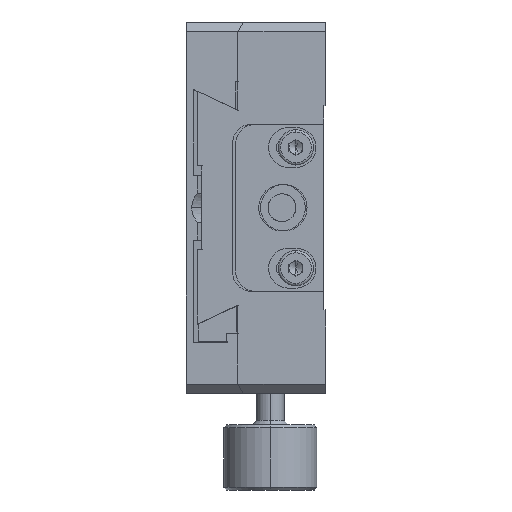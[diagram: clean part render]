
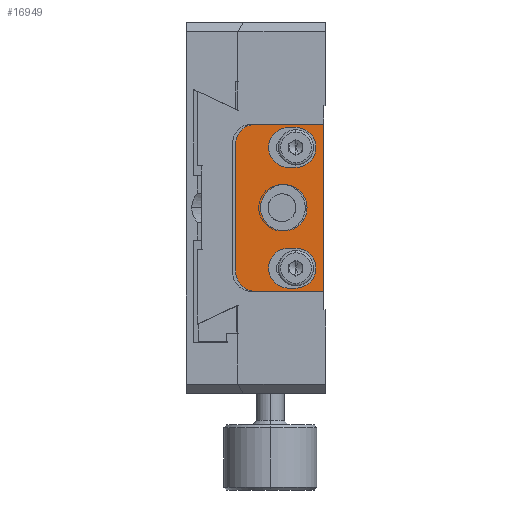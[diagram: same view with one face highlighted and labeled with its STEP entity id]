
A CAD part, left-side view. The second image highlights one B-rep face of the part: STEP entity #16949.
In plain terms, the highlighted planar face has unit normal (-1, 0, 0).
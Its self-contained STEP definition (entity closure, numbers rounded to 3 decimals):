
#80 = ORIENTED_EDGE ( 'NONE', *, *, #28536, .T. ) ;
#1060 = DIRECTION ( 'NONE',  ( 0., 0., 1. ) ) ;
#1406 = CARTESIAN_POINT ( 'NONE',  ( -20., -36.8, 6.5 ) ) ;
#1515 = CARTESIAN_POINT ( 'NONE',  ( -20., -36., 8.65 ) ) ;
#1973 = CARTESIAN_POINT ( 'NONE',  ( -20., -39.8, -9. ) ) ;
#2132 = VERTEX_POINT ( 'NONE', #30040 ) ;
#2209 = DIRECTION ( 'NONE',  ( 0., 1., 0. ) ) ;
#2574 = VERTEX_POINT ( 'NONE', #12204 ) ;
#2620 = ORIENTED_EDGE ( 'NONE', *, *, #29685, .T. ) ;
#2681 = CIRCLE ( 'NONE', #30521, 2.15 ) ;
#3192 = CARTESIAN_POINT ( 'NONE',  ( -20., -32.5, 9. ) ) ;
#3269 = CARTESIAN_POINT ( 'NONE',  ( -20., -36., -8.65 ) ) ;
#3463 = CIRCLE ( 'NONE', #26545, 2.2 ) ;
#3724 = DIRECTION ( 'NONE',  ( 1., 0., 0. ) ) ;
#3727 = FACE_BOUND ( 'NONE', #27489, .T. ) ;
#4065 = DIRECTION ( 'NONE',  ( 0., 0., -1. ) ) ;
#4332 = CARTESIAN_POINT ( 'NONE',  ( -20., -36., -6.5 ) ) ;
#4374 = ORIENTED_EDGE ( 'NONE', *, *, #18497, .F. ) ;
#4493 = AXIS2_PLACEMENT_3D ( 'NONE', #28134, #10881, #12857 ) ;
#5682 = ORIENTED_EDGE ( 'NONE', *, *, #12432, .T. ) ;
#5872 = DIRECTION ( 'NONE',  ( 0., 0., 1. ) ) ;
#6531 = DIRECTION ( 'NONE',  ( -1., 0., 0. ) ) ;
#6543 = CARTESIAN_POINT ( 'NONE',  ( -20., -39.8, -9. ) ) ;
#6698 = EDGE_CURVE ( 'NONE', #22333, #15012, #18984, .T. ) ;
#6717 = ORIENTED_EDGE ( 'NONE', *, *, #27676, .F. ) ;
#6776 = VERTEX_POINT ( 'NONE', #21617 ) ;
#6966 = CARTESIAN_POINT ( 'NONE',  ( -20., -39.8, 9. ) ) ;
#7097 = DIRECTION ( 'NONE',  ( 0., -1., 0. ) ) ;
#7300 = DIRECTION ( 'NONE',  ( 0., 0., -1. ) ) ;
#7938 = DIRECTION ( 'NONE',  ( 0., 0., 1. ) ) ;
#8508 = CARTESIAN_POINT ( 'NONE',  ( -20., -36., 6.5 ) ) ;
#8834 = PLANE ( 'NONE',  #30919 ) ;
#10217 = CARTESIAN_POINT ( 'NONE',  ( -20., -39.8, -9. ) ) ;
#10288 = VERTEX_POINT ( 'NONE', #27088 ) ;
#10655 = CARTESIAN_POINT ( 'NONE',  ( -20., -35.5, 0. ) ) ;
#10881 = DIRECTION ( 'NONE',  ( -1., 0., 0. ) ) ;
#11021 = EDGE_CURVE ( 'NONE', #25785, #12967, #16448, .T. ) ;
#11086 = ORIENTED_EDGE ( 'NONE', *, *, #25441, .F. ) ;
#11136 = DIRECTION ( 'NONE',  ( 0., 0., 1. ) ) ;
#11479 = CARTESIAN_POINT ( 'NONE',  ( -20., -35.5, 2.5 ) ) ;
#11714 = EDGE_CURVE ( 'NONE', #15551, #25296, #30379, .T. ) ;
#11987 = EDGE_CURVE ( 'NONE', #6776, #15551, #24905, .T. ) ;
#12204 = CARTESIAN_POINT ( 'NONE',  ( -20., -30.3, -6.8 ) ) ;
#12343 = DIRECTION ( 'NONE',  ( -1., 0., 0. ) ) ;
#12394 = VERTEX_POINT ( 'NONE', #3192 ) ;
#12432 = EDGE_CURVE ( 'NONE', #14493, #14543, #25960, .T. ) ;
#12460 = VECTOR ( 'NONE', #7097, 1000. ) ;
#12857 = DIRECTION ( 'NONE',  ( 0., 0., -1. ) ) ;
#12967 = VERTEX_POINT ( 'NONE', #25890 ) ;
#13115 = DIRECTION ( 'NONE',  ( 0., 1., 0. ) ) ;
#13256 = EDGE_CURVE ( 'NONE', #12394, #19053, #18644, .T. ) ;
#13801 = ORIENTED_EDGE ( 'NONE', *, *, #30404, .T. ) ;
#14327 = EDGE_CURVE ( 'NONE', #2574, #30123, #3463, .T. ) ;
#14493 = VERTEX_POINT ( 'NONE', #11479 ) ;
#14543 = VERTEX_POINT ( 'NONE', #30156 ) ;
#14580 = ORIENTED_EDGE ( 'NONE', *, *, #13256, .T. ) ;
#14722 = LINE ( 'NONE', #24728, #26544 ) ;
#14834 = DIRECTION ( 'NONE',  ( 0., 1., 0. ) ) ;
#14886 = AXIS2_PLACEMENT_3D ( 'NONE', #4332, #24215, #7300 ) ;
#14908 = VECTOR ( 'NONE', #15180, 1000. ) ;
#14998 = CARTESIAN_POINT ( 'NONE',  ( -20., -32.5, -9. ) ) ;
#15012 = VERTEX_POINT ( 'NONE', #6966 ) ;
#15180 = DIRECTION ( 'NONE',  ( 0., 1., 0. ) ) ;
#15551 = VERTEX_POINT ( 'NONE', #16252 ) ;
#15583 = VERTEX_POINT ( 'NONE', #30895 ) ;
#15862 = EDGE_LOOP ( 'NONE', ( #6717, #23418, #20821, #20579 ) ) ;
#16252 = CARTESIAN_POINT ( 'NONE',  ( -20., -36.8, 8.65 ) ) ;
#16448 = CIRCLE ( 'NONE', #14886, 2.15 ) ;
#16949 = ADVANCED_FACE ( 'NONE', ( #31365, #21324, #3727, #20995 ), #8834, .F. ) ;
#17045 = AXIS2_PLACEMENT_3D ( 'NONE', #23743, #28348, #28839 ) ;
#17278 = ORIENTED_EDGE ( 'NONE', *, *, #31169, .T. ) ;
#17437 = ORIENTED_EDGE ( 'NONE', *, *, #32241, .T. ) ;
#17898 = DIRECTION ( 'NONE',  ( 0., 0., -1. ) ) ;
#18497 = EDGE_CURVE ( 'NONE', #15583, #12967, #27202, .T. ) ;
#18500 = CARTESIAN_POINT ( 'NONE',  ( -20., -39.8, -9. ) ) ;
#18644 = CIRCLE ( 'NONE', #4493, 2.2 ) ;
#18984 = LINE ( 'NONE', #18500, #28493 ) ;
#19053 = VERTEX_POINT ( 'NONE', #19476 ) ;
#19476 = CARTESIAN_POINT ( 'NONE',  ( -20., -30.3, 6.8 ) ) ;
#20104 = CIRCLE ( 'NONE', #24841, 2.15 ) ;
#20107 = CARTESIAN_POINT ( 'NONE',  ( -20., -39.8, 9. ) ) ;
#20144 = ORIENTED_EDGE ( 'NONE', *, *, #11021, .T. ) ;
#20579 = ORIENTED_EDGE ( 'NONE', *, *, #30184, .T. ) ;
#20672 = DIRECTION ( 'NONE',  ( 0., 0., -1. ) ) ;
#20701 = ORIENTED_EDGE ( 'NONE', *, *, #6698, .T. ) ;
#20821 = ORIENTED_EDGE ( 'NONE', *, *, #11987, .F. ) ;
#20995 = FACE_BOUND ( 'NONE', #28824, .T. ) ;
#21152 = DIRECTION ( 'NONE',  ( -1., 0., 0. ) ) ;
#21324 = FACE_OUTER_BOUND ( 'NONE', #29368, .T. ) ;
#21617 = CARTESIAN_POINT ( 'NONE',  ( -20., -36.8, 4.35 ) ) ;
#21645 = DIRECTION ( 'NONE',  ( 1., 0., 0. ) ) ;
#22034 = DIRECTION ( 'NONE',  ( 0., 0., -1. ) ) ;
#22333 = VERTEX_POINT ( 'NONE', #10217 ) ;
#22347 = VECTOR ( 'NONE', #22034, 1000. ) ;
#22433 = DIRECTION ( 'NONE',  ( 0., 1., 0. ) ) ;
#22515 = CARTESIAN_POINT ( 'NONE',  ( -20., -32.5, -6.8 ) ) ;
#22723 = DIRECTION ( 'NONE',  ( -1., 0., 0. ) ) ;
#22733 = LINE ( 'NONE', #20107, #14908 ) ;
#23418 = ORIENTED_EDGE ( 'NONE', *, *, #11714, .F. ) ;
#23602 = VECTOR ( 'NONE', #22433, 1000. ) ;
#23743 = CARTESIAN_POINT ( 'NONE',  ( -20., -35.5, 0. ) ) ;
#24215 = DIRECTION ( 'NONE',  ( 1., 0., 0. ) ) ;
#24362 = LINE ( 'NONE', #29628, #31792 ) ;
#24500 = CARTESIAN_POINT ( 'NONE',  ( -20., -30.3, -9. ) ) ;
#24592 = ORIENTED_EDGE ( 'NONE', *, *, #14327, .T. ) ;
#24728 = CARTESIAN_POINT ( 'NONE',  ( -20., -36.8, -8.65 ) ) ;
#24841 = AXIS2_PLACEMENT_3D ( 'NONE', #8508, #6531, #11136 ) ;
#24905 = CIRCLE ( 'NONE', #26474, 2.15 ) ;
#25296 = VERTEX_POINT ( 'NONE', #1515 ) ;
#25441 = EDGE_CURVE ( 'NONE', #10288, #15583, #2681, .T. ) ;
#25785 = VERTEX_POINT ( 'NONE', #3269 ) ;
#25890 = CARTESIAN_POINT ( 'NONE',  ( -20., -36., -4.35 ) ) ;
#25960 = CIRCLE ( 'NONE', #17045, 2.5 ) ;
#26474 = AXIS2_PLACEMENT_3D ( 'NONE', #1406, #21152, #5872 ) ;
#26544 = VECTOR ( 'NONE', #2209, 1000. ) ;
#26545 = AXIS2_PLACEMENT_3D ( 'NONE', #22515, #12343, #17898 ) ;
#27088 = CARTESIAN_POINT ( 'NONE',  ( -20., -36.8, -8.65 ) ) ;
#27202 = LINE ( 'NONE', #32158, #23602 ) ;
#27284 = LINE ( 'NONE', #24500, #22347 ) ;
#27489 = EDGE_LOOP ( 'NONE', ( #2620, #5682 ) ) ;
#27676 = EDGE_CURVE ( 'NONE', #25296, #2132, #20104, .T. ) ;
#28134 = CARTESIAN_POINT ( 'NONE',  ( -20., -32.5, 6.8 ) ) ;
#28228 = CARTESIAN_POINT ( 'NONE',  ( -20., -36.8, 8.65 ) ) ;
#28348 = DIRECTION ( 'NONE',  ( 1., 0., 0. ) ) ;
#28493 = VECTOR ( 'NONE', #1060, 1000. ) ;
#28536 = EDGE_CURVE ( 'NONE', #15012, #12394, #22733, .T. ) ;
#28824 = EDGE_LOOP ( 'NONE', ( #17278, #20144, #4374, #11086 ) ) ;
#28839 = DIRECTION ( 'NONE',  ( 0., 0., -1. ) ) ;
#29368 = EDGE_LOOP ( 'NONE', ( #80, #14580, #13801, #24592, #17437, #20701 ) ) ;
#29628 = CARTESIAN_POINT ( 'NONE',  ( -20., -36.8, 4.35 ) ) ;
#29639 = AXIS2_PLACEMENT_3D ( 'NONE', #10655, #3724, #20672 ) ;
#29685 = EDGE_CURVE ( 'NONE', #14543, #14493, #31212, .T. ) ;
#30040 = CARTESIAN_POINT ( 'NONE',  ( -20., -36., 4.35 ) ) ;
#30123 = VERTEX_POINT ( 'NONE', #14998 ) ;
#30156 = CARTESIAN_POINT ( 'NONE',  ( -20., -35.5, -2.5 ) ) ;
#30184 = EDGE_CURVE ( 'NONE', #6776, #2132, #24362, .T. ) ;
#30288 = CARTESIAN_POINT ( 'NONE',  ( -20., -36.8, -6.5 ) ) ;
#30379 = LINE ( 'NONE', #28228, #32270 ) ;
#30404 = EDGE_CURVE ( 'NONE', #19053, #2574, #27284, .T. ) ;
#30521 = AXIS2_PLACEMENT_3D ( 'NONE', #30288, #22723, #7938 ) ;
#30895 = CARTESIAN_POINT ( 'NONE',  ( -20., -36.8, -4.35 ) ) ;
#30919 = AXIS2_PLACEMENT_3D ( 'NONE', #6543, #21645, #4065 ) ;
#31169 = EDGE_CURVE ( 'NONE', #10288, #25785, #14722, .T. ) ;
#31212 = CIRCLE ( 'NONE', #29639, 2.5 ) ;
#31365 = FACE_BOUND ( 'NONE', #15862, .T. ) ;
#31792 = VECTOR ( 'NONE', #14834, 1000. ) ;
#32158 = CARTESIAN_POINT ( 'NONE',  ( -20., -36.8, -4.35 ) ) ;
#32241 = EDGE_CURVE ( 'NONE', #30123, #22333, #32252, .T. ) ;
#32252 = LINE ( 'NONE', #1973, #12460 ) ;
#32270 = VECTOR ( 'NONE', #13115, 1000. ) ;
